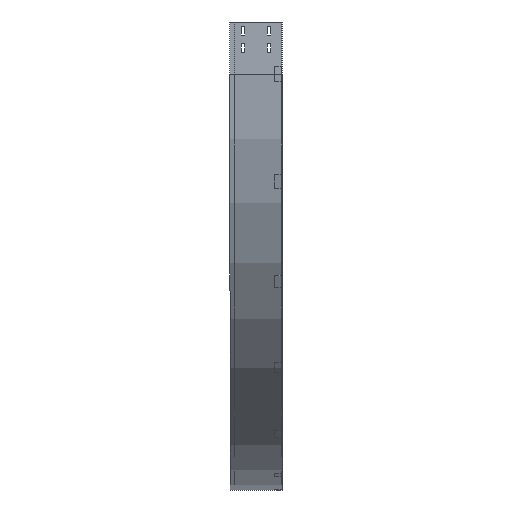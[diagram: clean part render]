
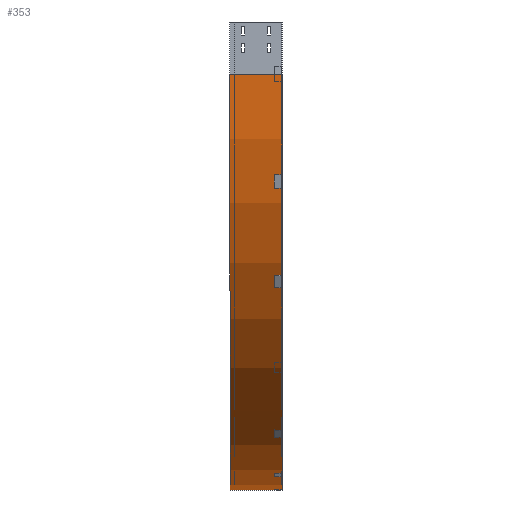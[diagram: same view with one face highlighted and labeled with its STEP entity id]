
A CAD part, left-side view. The second image highlights one B-rep face of the part: STEP entity #353.
In plain terms, the highlighted cylindrical face has radius 1200 mm (diameter 2400 mm), a partial arc.
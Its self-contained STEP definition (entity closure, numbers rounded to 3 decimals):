
#167 = FACE_OUTER_BOUND ( 'NONE', #1558, .T. ) ;
#180 = CARTESIAN_POINT ( 'NONE',  ( 1200., 0., -1350. ) ) ;
#232 = LINE ( 'NONE', #180, #3178 ) ;
#342 = EDGE_CURVE ( 'NONE', #3864, #1935, #444, .T. ) ;
#353 = ADVANCED_FACE ( 'NONE', ( #167 ), #1634, .T. ) ;
#444 = LINE ( 'NONE', #2515, #1945 ) ;
#622 = VERTEX_POINT ( 'NONE', #3602 ) ;
#694 = ORIENTED_EDGE ( 'NONE', *, *, #1573, .T. ) ;
#829 = VERTEX_POINT ( 'NONE', #1312 ) ;
#894 = CIRCLE ( 'NONE', #1529, 1200. ) ;
#969 = EDGE_CURVE ( 'NONE', #829, #622, #232, .T. ) ;
#991 = ORIENTED_EDGE ( 'NONE', *, *, #969, .T. ) ;
#1211 = DIRECTION ( 'NONE',  ( 0., -1., 0. ) ) ;
#1244 = DIRECTION ( 'NONE',  ( 0., -1., 0. ) ) ;
#1255 = CARTESIAN_POINT ( 'NONE',  ( 1200., 150., -150. ) ) ;
#1312 = CARTESIAN_POINT ( 'NONE',  ( 1200., 150., -1350. ) ) ;
#1529 = AXIS2_PLACEMENT_3D ( 'NONE', #1255, #1211, #2404 ) ;
#1558 = EDGE_LOOP ( 'NONE', ( #3620, #3751, #694, #991 ) ) ;
#1573 = EDGE_CURVE ( 'NONE', #3864, #829, #894, .T. ) ;
#1632 = CARTESIAN_POINT ( 'NONE',  ( 0., 0., -150. ) ) ;
#1634 = CYLINDRICAL_SURFACE ( 'NONE', #2807, 1200. ) ;
#1890 = DIRECTION ( 'NONE',  ( 0., -1., 0. ) ) ;
#1935 = VERTEX_POINT ( 'NONE', #1632 ) ;
#1945 = VECTOR ( 'NONE', #3723, 1000. ) ;
#2373 = CARTESIAN_POINT ( 'NONE',  ( 1200., 0., -150. ) ) ;
#2404 = DIRECTION ( 'NONE',  ( -1., 0., 0. ) ) ;
#2515 = CARTESIAN_POINT ( 'NONE',  ( 0., 0., -150. ) ) ;
#2527 = DIRECTION ( 'NONE',  ( 0., 0., -1. ) ) ;
#2593 = DIRECTION ( 'NONE',  ( 0., -1., 0. ) ) ;
#2684 = DIRECTION ( 'NONE',  ( -1., 0., 0. ) ) ;
#2700 = EDGE_CURVE ( 'NONE', #1935, #622, #3039, .T. ) ;
#2707 = CARTESIAN_POINT ( 'NONE',  ( 0., 150., -150. ) ) ;
#2781 = CARTESIAN_POINT ( 'NONE',  ( 1200., 0., -150. ) ) ;
#2807 = AXIS2_PLACEMENT_3D ( 'NONE', #2781, #1890, #2527 ) ;
#2848 = AXIS2_PLACEMENT_3D ( 'NONE', #2373, #1244, #2684 ) ;
#3039 = CIRCLE ( 'NONE', #2848, 1200. ) ;
#3178 = VECTOR ( 'NONE', #2593, 1000. ) ;
#3602 = CARTESIAN_POINT ( 'NONE',  ( 1200., 0., -1350. ) ) ;
#3620 = ORIENTED_EDGE ( 'NONE', *, *, #2700, .F. ) ;
#3723 = DIRECTION ( 'NONE',  ( 0., -1., 0. ) ) ;
#3751 = ORIENTED_EDGE ( 'NONE', *, *, #342, .F. ) ;
#3864 = VERTEX_POINT ( 'NONE', #2707 ) ;
